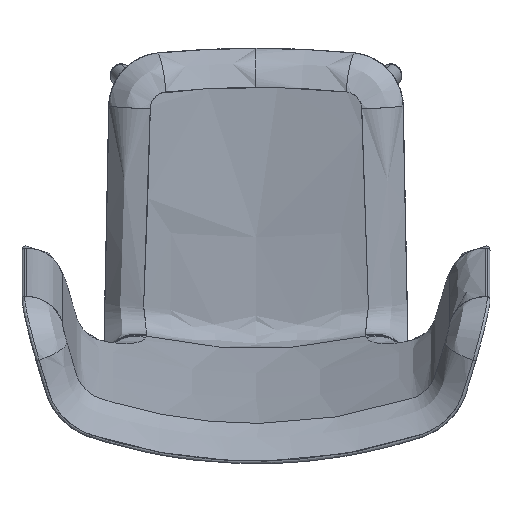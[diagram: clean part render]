
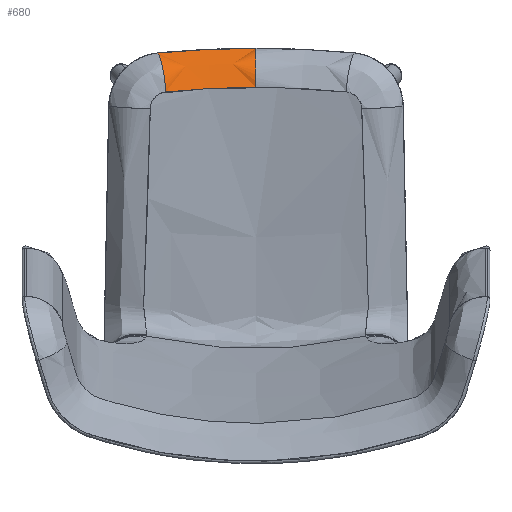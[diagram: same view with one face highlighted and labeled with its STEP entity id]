
A CAD part, top view. The second image highlights one B-rep face of the part: STEP entity #680.
In plain terms, the highlighted free-form (B-spline) face has degree [3, 2] with [10, 3] control points.
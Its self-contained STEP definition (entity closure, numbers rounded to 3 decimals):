
#680=ADVANCED_FACE('',(#838),#3158,.T.);
#838=FACE_OUTER_BOUND('',#1016,.T.);
#1016=EDGE_LOOP('',(#1461,#1462,#1463,#1464));
#1461=ORIENTED_EDGE('',*,*,#1962,.T.);
#1462=ORIENTED_EDGE('',*,*,#1965,.T.);
#1463=ORIENTED_EDGE('',*,*,#1964,.T.);
#1464=ORIENTED_EDGE('',*,*,#1963,.T.);
#1962=EDGE_CURVE('',#2964,#2967,#2481,.T.);
#1963=EDGE_CURVE('',#2965,#2964,#2482,.T.);
#1964=EDGE_CURVE('',#2966,#2965,#2483,.T.);
#1965=EDGE_CURVE('',#2967,#2966,#2484,.T.);
#2481=B_SPLINE_CURVE_WITH_KNOTS('',3,(#16944,#16945,#16946,#16947,#16948,
#16949,#16950,#16951,#16952,#16953),.UNSPECIFIED.,.F.,.F.,(4,2,2,2,4),(0.,
0.25,0.5,0.75,1.),.UNSPECIFIED.);
#2482=B_SPLINE_CURVE_WITH_KNOTS('',3,(#16954,#16955,#16956,#16957,#16958,
#16959),.UNSPECIFIED.,.F.,.F.,(4,2,4),(3.,3.5,4.),.UNSPECIFIED.);
#2483=B_SPLINE_CURVE_WITH_KNOTS('',3,(#16960,#16961,#16962,#16963,#16964,
#16965,#16966,#16967,#16968,#16969),.UNSPECIFIED.,.F.,.F.,(4,2,2,2,4),(2.,
2.25,2.5,2.75,3.),.UNSPECIFIED.);
#2484=B_SPLINE_CURVE_WITH_KNOTS('',3,(#16970,#16971,#16972,#16973,#16974,
#16975),.UNSPECIFIED.,.F.,.F.,(4,2,4),(1.,1.5,2.),.UNSPECIFIED.);
#2964=VERTEX_POINT('',#16940);
#2965=VERTEX_POINT('',#16941);
#2966=VERTEX_POINT('',#16942);
#2967=VERTEX_POINT('',#16943);
#3158=(
BOUNDED_SURFACE()
B_SPLINE_SURFACE(3,2,((#16910,#16911,#16912),(#16913,#16914,#16915),(#16916,
#16917,#16918),(#16919,#16920,#16921),(#16922,#16923,#16924),(#16925,#16926,
#16927),(#16928,#16929,#16930),(#16931,#16932,#16933),(#16934,#16935,#16936),
(#16937,#16938,#16939)),.UNSPECIFIED.,.F.,.F.,.F.)
B_SPLINE_SURFACE_WITH_KNOTS((4,2,2,2,4),(3,3),(0.113,0.159,
0.204,0.25,0.295),(0.,1.),
 .UNSPECIFIED.)
GEOMETRIC_REPRESENTATION_ITEM()
RATIONAL_B_SPLINE_SURFACE(((1.,0.756,1.),(1.,0.756,
1.),(1.,0.756,1.),(1.,0.756,1.),(1.,0.756,
1.),(1.,0.756,1.),(1.,0.755,1.),(1.,0.755,
1.),(1.,0.755,1.),(1.,0.755,1.)))
REPRESENTATION_ITEM('')
SURFACE()
);
#16910=CARTESIAN_POINT('',(-254.087,53.929,337.332));
#16911=CARTESIAN_POINT('',(-254.087,40.072,396.349));
#16912=CARTESIAN_POINT('',(-254.087,-20.319,391.065));
#16913=CARTESIAN_POINT('',(-269.553,53.929,337.332));
#16914=CARTESIAN_POINT('',(-268.568,40.072,396.349));
#16915=CARTESIAN_POINT('',(-268.184,-20.319,391.065));
#16916=CARTESIAN_POINT('',(-285.056,53.747,337.694));
#16917=CARTESIAN_POINT('',(-283.085,39.887,396.69));
#16918=CARTESIAN_POINT('',(-282.316,-20.502,391.379));
#16919=CARTESIAN_POINT('',(-315.979,53.022,339.142));
#16920=CARTESIAN_POINT('',(-312.041,39.148,398.052));
#16921=CARTESIAN_POINT('',(-310.517,-21.233,392.634));
#16922=CARTESIAN_POINT('',(-331.411,52.479,340.226));
#16923=CARTESIAN_POINT('',(-326.492,38.595,399.072));
#16924=CARTESIAN_POINT('',(-324.592,-21.78,393.573));
#16925=CARTESIAN_POINT('',(-362.201,51.038,343.116));
#16926=CARTESIAN_POINT('',(-355.327,37.122,401.791));
#16927=CARTESIAN_POINT('',(-352.701,-23.238,396.075));
#16928=CARTESIAN_POINT('',(-377.54,50.141,344.918));
#16929=CARTESIAN_POINT('',(-369.695,36.203,403.487));
#16930=CARTESIAN_POINT('',(-366.713,-24.147,397.636));
#16931=CARTESIAN_POINT('',(-408.029,48.006,349.223));
#16932=CARTESIAN_POINT('',(-398.258,34.01,407.538));
#16933=CARTESIAN_POINT('',(-394.602,-26.319,401.36));
#16934=CARTESIAN_POINT('',(-423.189,46.769,351.726));
#16935=CARTESIAN_POINT('',(-412.464,32.736,409.894));
#16936=CARTESIAN_POINT('',(-408.487,-27.582,403.524));
#16937=CARTESIAN_POINT('',(-438.265,45.367,354.577));
#16938=CARTESIAN_POINT('',(-426.59,31.287,412.577));
#16939=CARTESIAN_POINT('',(-422.314,-29.019,405.986));
#16940=CARTESIAN_POINT('',(-254.087,-20.319,391.065));
#16941=CARTESIAN_POINT('',(-422.314,-29.019,405.986));
#16942=CARTESIAN_POINT('',(-437.047,43.64,360.497));
#16943=CARTESIAN_POINT('',(-254.087,52.225,343.36));
#16944=CARTESIAN_POINT('',(-254.087,-20.319,391.065));
#16945=CARTESIAN_POINT('',(-254.087,-12.544,391.746));
#16946=CARTESIAN_POINT('',(-254.087,-4.656,391.113));
#16947=CARTESIAN_POINT('',(-254.087,10.479,387.294));
#16948=CARTESIAN_POINT('',(-254.087,17.722,384.107));
#16949=CARTESIAN_POINT('',(-254.087,30.764,375.531));
#16950=CARTESIAN_POINT('',(-254.087,36.56,370.143));
#16951=CARTESIAN_POINT('',(-254.087,46.063,357.76));
#16952=CARTESIAN_POINT('',(-254.087,49.769,350.768));
#16953=CARTESIAN_POINT('',(-254.087,52.225,343.36));
#16954=CARTESIAN_POINT('',(-422.314,-29.019,405.986));
#16955=CARTESIAN_POINT('',(-395.144,-26.195,401.149));
#16956=CARTESIAN_POINT('',(-367.467,-24.006,397.413));
#16957=CARTESIAN_POINT('',(-311.316,-21.07,392.37));
#16958=CARTESIAN_POINT('',(-282.84,-20.319,391.065));
#16959=CARTESIAN_POINT('',(-254.087,-20.319,391.065));
#16960=CARTESIAN_POINT('',(-437.047,43.64,360.497));
#16961=CARTESIAN_POINT('',(-435.521,41.157,367.755));
#16962=CARTESIAN_POINT('',(-433.96,37.425,374.576));
#16963=CARTESIAN_POINT('',(-430.941,27.877,386.593));
#16964=CARTESIAN_POINT('',(-429.484,22.063,391.786));
#16965=CARTESIAN_POINT('',(-426.834,8.996,399.967));
#16966=CARTESIAN_POINT('',(-425.642,1.746,402.953));
#16967=CARTESIAN_POINT('',(-423.657,-13.385,406.387));
#16968=CARTESIAN_POINT('',(-422.864,-21.263,406.834));
#16969=CARTESIAN_POINT('',(-422.314,-29.019,405.986));
#16970=CARTESIAN_POINT('',(-254.087,52.225,343.36));
#16971=CARTESIAN_POINT('',(-284.845,52.225,343.36));
#16972=CARTESIAN_POINT('',(-315.484,51.498,344.796));
#16973=CARTESIAN_POINT('',(-376.527,48.621,350.514));
#16974=CARTESIAN_POINT('',(-406.953,46.466,354.805));
#16975=CARTESIAN_POINT('',(-437.047,43.64,360.497));
